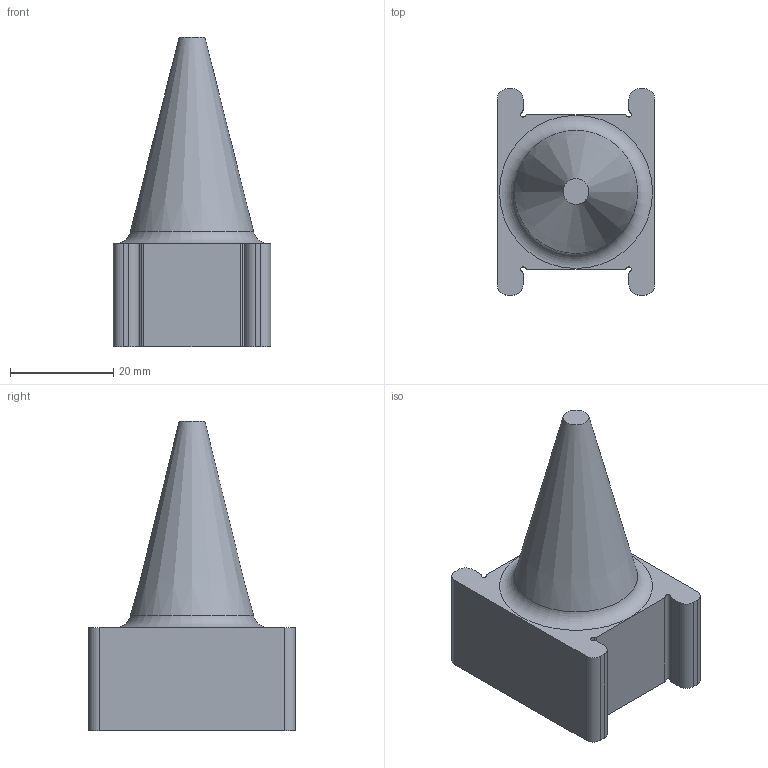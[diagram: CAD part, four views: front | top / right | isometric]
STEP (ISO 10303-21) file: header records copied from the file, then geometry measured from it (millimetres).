
FILE_DESCRIPTION(/* description */ (''),/* implementation_level */ '2;1');
FILE_NAME(/* name */ 'ORA Calibration Tool.step',/* time_stamp */ '2024-09-26T15:54:24-07:00',/* author */ (''),/* organization */ (''),/* preprocessor_version */ 'ST-DEVELOPER v20',/* originating_system */ 'Autodesk Translation Framework v13.20.0.188',/* authorisation */ '');
FILE_SCHEMA (('AUTOMOTIVE_DESIGN { 1 0 10303 214 3 1 1 }'));
Length unit declared in the file: millimetre
Products named in the file (1): ora-calibration-4
Bounding box: 30.5 x 40 x 60 mm (x, y, z)
Volume: 28314 mm3; surface area: 6604.5 mm2
Topology: 1 solids, 1 shells, 37 faces, 101 edges, 67 vertices
Faces by surface type: cylinder 20, plane 15, torus 1, cone 1
Entity records: 1231 total; most frequent: DIRECTION 221, CARTESIAN_POINT 206, ORIENTED_EDGE 202, EDGE_CURVE 101, AXIS2_PLACEMENT_3D 82, VERTEX_POINT 67, LINE 57, VECTOR 57
